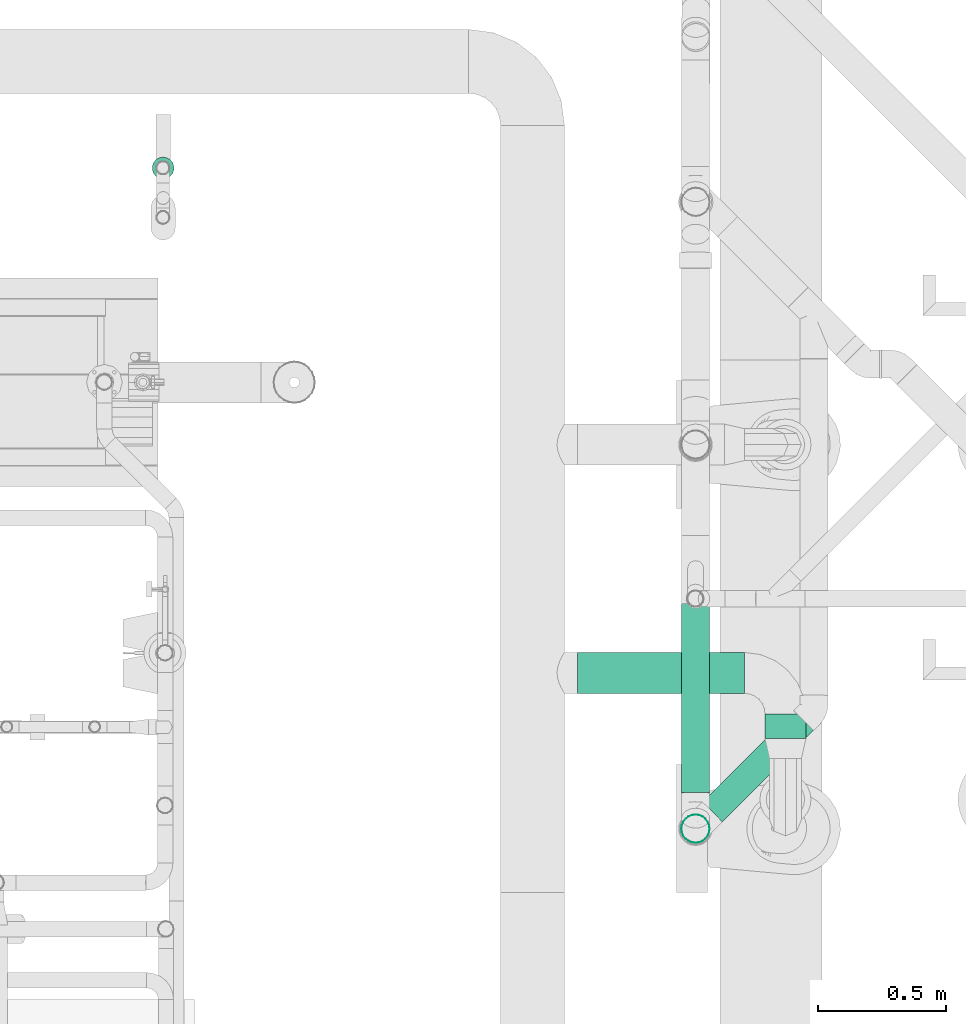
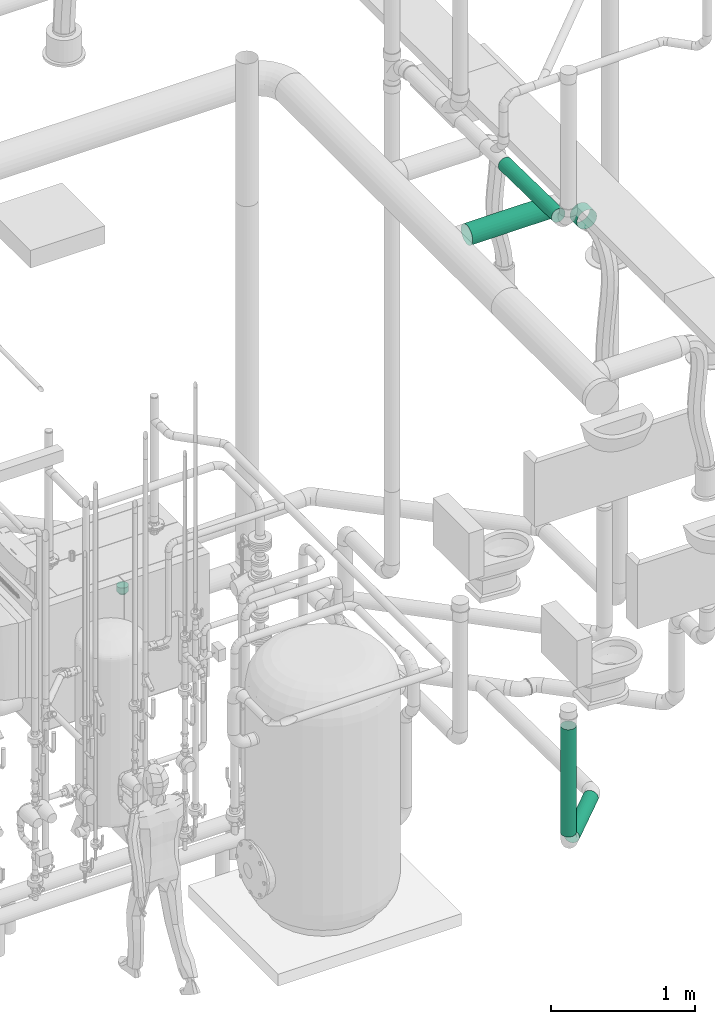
# One storey, part 298 of 374: 5 flow segments, 1 flow fitting.
"""IFC2X3 building model written with IfcOpenShell, lengths in metres."""

from ifc_helpers import new_model, si_unit, direction, origin, place, context, subcontext, project, spatial, open_shell, surface_model, source, transform, mapped, element, save


model = new_model("IFC2X3")

# Units and contexts
model_context = context("Model", 3, precision=1e-05, world=origin(), true_north=direction((-0.4480736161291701, 0.8939966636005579)))
body_context = subcontext(model_context, "Body", "Model", "MODEL_VIEW")
ifc_project = project(units=[si_unit("LENGTHUNIT", "METRE"), si_unit("AREAUNIT", "SQUARE_METRE"), si_unit("VOLUMEUNIT", "CUBIC_METRE"), si_unit("PLANEANGLEUNIT", "RADIAN"), si_unit("THERMODYNAMICTEMPERATUREUNIT", "KELVIN"), si_unit("MASSUNIT", "GRAM", prefix="KILO"), si_unit("TIMEUNIT", "SECOND")], contexts=[model_context])

# Site, building, storey
site_placement = place(None, origin())
site = spatial("IfcSite", under=ifc_project, at=site_placement, Name="Site 1", CompositionType="ELEMENT")
building_placement = place(site_placement, origin())
building = spatial("IfcBuilding", under=site, at=building_placement, Name="Undefined", CompositionType="ELEMENT")
storey_placement = place(building_placement, origin())
storey = spatial("IfcBuildingStorey", under=building, at=storey_placement, Name="Rez de chauss\x8ee", CompositionType="ELEMENT", Elevation=0.0)

# Flow segments
shared_shape_1 = source(origin(), body_context, "Body", "SurfaceModel", [
    surface_model("IfcFaceBasedSurfaceModel", [(0.5050367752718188, 0.0, 3.552713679e-15), (0.5051065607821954, 0.014357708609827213, -3.552713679e-15), (6.978551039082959e-05, 0.014357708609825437, 0.0), (0.0, 0.0, 0.0), (0.5051715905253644, 0.02822619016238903, -0.003716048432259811), (0.00013481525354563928, 0.02822619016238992, -0.0037160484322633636), (0.505227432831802, 0.04066033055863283, -0.010894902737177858), (0.00019065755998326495, 0.04066033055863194, -0.010894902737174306), (0.5052702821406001, 0.05081276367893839, -0.021047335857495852), (0.0002335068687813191, 0.0508127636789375, -0.0210473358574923), (0.5052972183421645, 0.05799161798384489, -0.03348147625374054), (0.0002604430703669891, 0.05799161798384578, -0.03348147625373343), (0.5053064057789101, 0.06170766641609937, -0.047349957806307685), (0.000269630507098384, 0.06170766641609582, -0.04734995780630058), (0.5052972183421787, 0.061707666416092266, -0.06170766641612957), (0.0002604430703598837, 0.061707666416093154, -0.06170766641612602), (0.5052702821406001, 0.057991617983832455, -0.07557614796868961), (0.00023350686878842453, 0.05799161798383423, -0.07557614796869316), (0.5052274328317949, 0.050812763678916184, -0.08801028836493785), (0.00019065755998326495, 0.050812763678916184, -0.0880102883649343), (0.5051715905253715, 0.04066033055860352, -0.09816272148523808), (0.00013481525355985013, 0.04066033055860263, -0.09816272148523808), (0.5051065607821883, 0.028226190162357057, -0.10534157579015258), (6.978551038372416e-05, 0.028226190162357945, -0.10534157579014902), (0.5050367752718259, 0.014357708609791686, -0.10905762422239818), (1.4210854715e-14, 0.01435770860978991, -0.10905762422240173), (0.5049669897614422, -3.3750779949e-14, -0.10905762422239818), (-6.978551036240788e-05, -3.4638958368e-14, -0.10905762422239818), (0.5049019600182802, -0.013868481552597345, -0.10534157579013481), (-0.00013481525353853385, -0.013868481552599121, -0.10534157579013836), (0.5048461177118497, -0.026302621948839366, -0.09816272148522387), (-0.0001906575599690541, -0.026302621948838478, -0.09816272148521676), (0.5048032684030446, -0.0364550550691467, -0.08801028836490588), (-0.00023350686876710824, -0.03645505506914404, -0.08801028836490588), (0.504776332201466, -0.043633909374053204, -0.0755761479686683), (-0.0002604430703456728, -0.04363390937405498, -0.07557614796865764), (0.5047671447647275, -0.04734995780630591, -0.061707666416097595), (-0.00026963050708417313, -0.0473499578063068, -0.06170766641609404), (0.5047763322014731, -0.04734995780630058, -0.04734995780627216), (-0.0002604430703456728, -0.047349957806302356, -0.047349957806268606), (0.5048032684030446, -0.04363390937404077, -0.03348147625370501), (-0.00023350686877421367, -0.04363390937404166, -0.03348147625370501), (0.5048461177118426, -0.03645505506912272, -0.021047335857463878), (-0.0001906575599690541, -0.036455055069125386, -0.021047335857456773), (0.5049019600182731, -0.026302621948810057, -0.010894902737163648), (-0.00013481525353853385, -0.02630262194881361, -0.010894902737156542), (0.5049669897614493, -0.01386848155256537, -0.0037160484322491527), (-6.978551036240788e-05, -0.013868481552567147, -0.0037160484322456)], [open_shell([[[0, 1, 2, 3]], [[1, 4, 5, 2]], [[4, 6, 7, 5]], [[6, 8, 9, 7]], [[8, 10, 11, 9]], [[10, 12, 13, 11]], [[12, 14, 15, 13]], [[14, 16, 17, 15]], [[16, 18, 19, 17]], [[18, 20, 21, 19]], [[20, 22, 23, 21]], [[22, 24, 25, 23]], [[24, 26, 27, 25]], [[26, 28, 29, 27]], [[28, 30, 31, 29]], [[30, 32, 33, 31]], [[32, 34, 35, 33]], [[34, 36, 37, 35]], [[36, 38, 39, 37]], [[38, 40, 41, 39]], [[40, 42, 43, 41]], [[42, 44, 45, 43]], [[44, 46, 47, 45]], [[46, 0, 3, 47]]])]),
])
flow_segment_1_placement = place(storey_placement, origin())
element("IfcFlowSegment", 1, at=flow_segment_1_placement, inside=storey, Name="PE-HD tuyau", ObjectType="PE-HD tuyau", context=body_context, shape_type="MappedRepresentation", body=[
    mapped(shared_shape_1, transform((57.457491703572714, 11.77189578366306, -1.1550323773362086), x_axis=(-0.7067858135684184, -0.7072128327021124, 0.01743051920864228), y_axis=(0.18993416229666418, -0.16596960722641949, 0.9676668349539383), z_axis=(-0.6814534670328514, 0.6872438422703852, 0.2516288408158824))),
])
shared_shape_2 = source(origin(), body_context, "Body", "SurfaceModel", [
    surface_model("IfcFaceBasedSurfaceModel", [(0.0, 0.014357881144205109, -3.552713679e-15), (0.0, 0.0, 0.0), (0.9082293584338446, -7.105427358e-15, 7.105427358e-15), (0.9082293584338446, 0.01435788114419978, 7.105427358e-15), (0.0, -0.01386864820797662, -0.0037160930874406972), (0.9082293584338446, -0.013868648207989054, -0.0037160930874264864), (0.0, -0.026302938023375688, -0.010895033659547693), (0.9082293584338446, -0.02630293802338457, -0.010895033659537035), (0.0, -0.03645549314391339, -0.021047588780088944), (0.9082293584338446, -0.03645549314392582, -0.02104758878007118), (0.0, -0.04363443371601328, -0.033481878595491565), (0.9082293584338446, -0.043634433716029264, -0.033481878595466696), (0.0, -0.04735052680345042, -0.04735052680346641), (0.9082293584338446, -0.04735052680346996, -0.04735052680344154), (0.0, -0.04735052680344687, -0.06170840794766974), (0.9082293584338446, -0.04735052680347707, -0.061708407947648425), (0.0, -0.04363443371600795, -0.07557705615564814), (0.9082293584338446, -0.043634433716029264, -0.07557705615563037), (0.0, -0.03645549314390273, -0.08801134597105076), (0.9082293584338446, -0.03645549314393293, -0.08801134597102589), (0.0, -0.026302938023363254, -0.0981639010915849), (0.9082293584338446, -0.02630293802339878, -0.09816390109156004), (0.0, -0.013868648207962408, -0.1053428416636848), (0.9082293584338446, -0.01386864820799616, -0.10534284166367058), (0.0, 1.5987211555e-14, -0.10905893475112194), (0.9082293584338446, -1.4210854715e-14, -0.10905893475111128), (0.0, 0.014357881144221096, -0.10905893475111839), (0.9082293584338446, 0.01435788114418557, -0.10905893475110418), (0.0, 0.028226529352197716, -0.10534284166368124), (0.9082293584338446, 0.028226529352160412, -0.10534284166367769), (0.0, 0.040660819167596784, -0.0981639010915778), (0.9082293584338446, 0.040660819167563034, -0.09816390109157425), (0.0, 0.05081337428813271, -0.08801134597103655), (0.9082293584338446, 0.05081337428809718, -0.088011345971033), (0.0, 0.05799231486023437, -0.07557705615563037), (0.9082293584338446, 0.05799231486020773, -0.07557705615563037), (0.0, 0.06170840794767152, -0.06170840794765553), (0.9082293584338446, 0.061708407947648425, -0.061708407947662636), (0.0, 0.061708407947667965, -0.0473505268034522), (0.9082293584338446, 0.061708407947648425, -0.04735052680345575), (0.0, 0.05799231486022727, -0.033481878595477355), (0.9082293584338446, 0.05799231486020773, -0.0334818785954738), (0.0, 0.050813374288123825, -0.021047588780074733), (0.9082293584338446, 0.05081337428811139, -0.021047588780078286), (0.0, 0.04066081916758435, -0.010895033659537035), (0.9082293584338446, 0.040660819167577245, -0.01089503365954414), (0.0, 0.028226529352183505, -0.0037160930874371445), (0.9082293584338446, 0.028226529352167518, -0.003716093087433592)], [open_shell([[[0, 1, 2, 3]], [[1, 4, 5, 2]], [[4, 6, 7, 5]], [[6, 8, 9, 7]], [[8, 10, 11, 9]], [[10, 12, 13, 11]], [[12, 14, 15, 13]], [[14, 16, 17, 15]], [[16, 18, 19, 17]], [[18, 20, 21, 19]], [[20, 22, 23, 21]], [[22, 24, 25, 23]], [[24, 26, 27, 25]], [[26, 28, 29, 27]], [[28, 30, 31, 29]], [[30, 32, 33, 31]], [[32, 34, 35, 33]], [[34, 36, 37, 35]], [[36, 38, 39, 37]], [[38, 40, 41, 39]], [[40, 42, 43, 41]], [[42, 44, 45, 43]], [[44, 46, 47, 45]], [[46, 0, 3, 47]]])]),
])
flow_segment_2_placement = place(storey_placement, origin())
element("IfcFlowSegment", 2, at=flow_segment_2_placement, inside=storey, Name="PE-HD tuyau", ObjectType="PE-HD tuyau", context=body_context, shape_type="MappedRepresentation", body=[
    mapped(shared_shape_2, transform((57.025760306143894, 11.33789170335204, -1.0587293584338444), x_axis=(0.0, 0.0, 1.0), y_axis=(0.6087614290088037, 0.7933533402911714, 0.0), z_axis=(-0.7933533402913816, 0.6087614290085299, 0.0))),
])
shared_shape_3 = source(origin(), body_context, "Body", "SurfaceModel", [
    surface_model("IfcFaceBasedSurfaceModel", [(0.0, 0.020884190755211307, 0.0), (0.0, 0.0, 0.0), (0.6539490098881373, 0.0, 0.0), (0.6539490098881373, 0.020884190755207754, -4.4408921e-16), (0.0, -0.020172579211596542, -0.005405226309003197), (0.6539490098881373, -0.020172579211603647, -0.005405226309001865), (0.0, -0.03825881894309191, -0.015847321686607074), (0.6539490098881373, -0.038258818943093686, -0.01584732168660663), (0.0, -0.05302617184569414, -0.0306146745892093), (0.6539490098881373, -0.05302617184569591, -0.030614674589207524), (0.0, -0.06346826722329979, -0.04870091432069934), (0.6539490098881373, -0.06346826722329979, -0.04870091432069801), (0.0, -0.06887349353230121, -0.06887349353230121), (0.6539490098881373, -0.06887349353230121, -0.06887349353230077), (0.0, -0.06887349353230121, -0.08975768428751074), (0.6539490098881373, -0.06887349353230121, -0.08975768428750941), (0.0, -0.06346826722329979, -0.10993026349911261), (0.6539490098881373, -0.06346826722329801, -0.10993026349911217), (0.0, -0.05302617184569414, -0.12801650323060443), (0.6539490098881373, -0.05302617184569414, -0.1280165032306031), (0.0, -0.038258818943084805, -0.14278385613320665), (0.6539490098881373, -0.03825881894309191, -0.14278385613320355), (0.0, -0.020172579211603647, -0.15322595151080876), (0.6539490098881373, -0.02017257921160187, -0.15322595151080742), (0.0, 7.105427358e-15, -0.15863117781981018), (0.6539490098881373, 0.0, -0.15863117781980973), (0.0, 0.020884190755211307, -0.15863117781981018), (0.6539490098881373, 0.02088419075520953, -0.15863117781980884), (0.0, 0.04105676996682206, -0.15322595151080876), (0.6539490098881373, 0.04105676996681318, -0.15322595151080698), (0.0, 0.05914300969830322, -0.1427838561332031), (0.6539490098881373, 0.05914300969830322, -0.1427838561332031), (0.0, 0.07391036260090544, -0.12801650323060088), (0.6539490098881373, 0.07391036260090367, -0.12801650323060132), (0.0, 0.0843524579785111, -0.10993026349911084), (0.6539490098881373, 0.08435245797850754, -0.10993026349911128), (0.0, 0.08975768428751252, -0.08975768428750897), (0.6539490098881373, 0.08975768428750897, -0.08975768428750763), (0.0, 0.08975768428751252, -0.06887349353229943), (0.6539490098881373, 0.08975768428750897, -0.06887349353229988), (0.0, 0.0843524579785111, -0.048700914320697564), (0.6539490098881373, 0.08435245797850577, -0.04870091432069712), (0.0, 0.07391036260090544, -0.030614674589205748), (0.6539490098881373, 0.07391036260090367, -0.030614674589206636), (0.0, 0.05914300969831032, -0.015847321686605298), (0.6539490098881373, 0.05914300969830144, -0.015847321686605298), (0.0, 0.04105676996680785, -0.005405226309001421), (0.6539490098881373, 0.0410567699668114, -0.005405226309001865)], [open_shell([[[0, 1, 2, 3]], [[1, 4, 5, 2]], [[4, 6, 7, 5]], [[6, 8, 9, 7]], [[8, 10, 11, 9]], [[10, 12, 13, 11]], [[12, 14, 15, 13]], [[14, 16, 17, 15]], [[16, 18, 19, 17]], [[18, 20, 21, 19]], [[20, 22, 23, 21]], [[22, 24, 25, 23]], [[24, 26, 27, 25]], [[26, 28, 29, 27]], [[28, 30, 31, 29]], [[30, 32, 33, 31]], [[32, 34, 35, 33]], [[34, 36, 37, 35]], [[36, 38, 39, 37]], [[38, 40, 41, 39]], [[40, 42, 43, 41]], [[42, 44, 45, 43]], [[44, 46, 47, 45]], [[46, 0, 3, 47]]])]),
])
flow_segment_3_placement = place(storey_placement, origin())
element("IfcFlowSegment", 3, at=flow_segment_3_placement, inside=storey, Name="Tube", ObjectType="Tube", context=body_context, shape_type="MappedRepresentation", body=[
    mapped(shared_shape_3, transform((56.61105099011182, 11.899294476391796, 3.877274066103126), x_axis=(1.0, 0.0, 0.0), y_axis=(0.0, 0.9914448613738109, 0.1305261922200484), z_axis=(0.0, -0.1305261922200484, 0.9914448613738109))),
])
shared_shape_4 = source(origin(), body_context, "Body", "SurfaceModel", [
    surface_model("IfcFaceBasedSurfaceModel", [(0.0, 0.020884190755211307, 0.0), (0.0, 0.0, 0.0), (0.09726623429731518, 0.0, 0.0), (0.09726623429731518, 0.0208841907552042, 0.0), (0.0, -0.020172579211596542, -0.005405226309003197), (0.09726623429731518, -0.020172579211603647, -0.005405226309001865), (0.0, -0.03825881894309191, -0.015847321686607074), (0.09726623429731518, -0.038258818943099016, -0.015847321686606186), (0.0, -0.05302617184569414, -0.0306146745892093), (0.09726623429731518, -0.05302617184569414, -0.03061467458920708), (0.0, -0.06346826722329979, -0.04870091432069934), (0.09726623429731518, -0.06346826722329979, -0.04870091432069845), (0.0, -0.06887349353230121, -0.06887349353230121), (0.09726623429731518, -0.06887349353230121, -0.06887349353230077), (0.0, -0.06887349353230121, -0.08975768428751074), (0.09726623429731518, -0.06887349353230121, -0.08975768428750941), (0.0, -0.06346826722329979, -0.10993026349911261), (0.09726623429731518, -0.06346826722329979, -0.10993026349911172), (0.0, -0.05302617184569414, -0.12801650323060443), (0.09726623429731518, -0.05302617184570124, -0.12801650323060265), (0.0, -0.038258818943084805, -0.14278385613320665), (0.09726623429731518, -0.03825881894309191, -0.1427838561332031), (0.0, -0.020172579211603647, -0.15322595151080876), (0.09726623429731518, -0.020172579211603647, -0.15322595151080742), (0.0, 7.105427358e-15, -0.15863117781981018), (0.09726623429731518, -7.105427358e-15, -0.1586311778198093), (0.0, 0.020884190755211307, -0.15863117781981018), (0.09726623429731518, 0.020884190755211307, -0.15863117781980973), (0.0, 0.04105676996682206, -0.15322595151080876), (0.09726623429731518, 0.041056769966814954, -0.15322595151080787), (0.0, 0.05914300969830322, -0.1427838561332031), (0.09726623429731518, 0.05914300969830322, -0.142783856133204), (0.0, 0.07391036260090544, -0.12801650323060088), (0.09726623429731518, 0.07391036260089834, -0.12801650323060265), (0.0, 0.0843524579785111, -0.10993026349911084), (0.09726623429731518, 0.08435245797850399, -0.10993026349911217), (0.0, 0.08975768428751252, -0.08975768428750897), (0.09726623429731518, 0.08975768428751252, -0.08975768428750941), (0.0, 0.08975768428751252, -0.06887349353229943), (0.09726623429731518, 0.08975768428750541, -0.06887349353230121), (0.0, 0.0843524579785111, -0.048700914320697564), (0.09726623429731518, 0.08435245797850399, -0.04870091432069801), (0.0, 0.07391036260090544, -0.030614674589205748), (0.09726623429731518, 0.07391036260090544, -0.030614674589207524), (0.0, 0.05914300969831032, -0.015847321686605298), (0.09726623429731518, 0.05914300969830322, -0.01584732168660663), (0.0, 0.04105676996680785, -0.005405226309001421), (0.09726623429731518, 0.041056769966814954, -0.005405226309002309)], [open_shell([[[0, 1, 2, 3]], [[1, 4, 5, 2]], [[4, 6, 7, 5]], [[6, 8, 9, 7]], [[8, 10, 11, 9]], [[10, 12, 13, 11]], [[12, 14, 15, 13]], [[14, 16, 17, 15]], [[16, 18, 19, 17]], [[18, 20, 21, 19]], [[20, 22, 23, 21]], [[22, 24, 25, 23]], [[24, 26, 27, 25]], [[26, 28, 29, 27]], [[28, 30, 31, 29]], [[30, 32, 33, 31]], [[32, 34, 35, 33]], [[34, 36, 37, 35]], [[36, 38, 39, 37]], [[38, 40, 41, 39]], [[40, 42, 43, 41]], [[42, 44, 45, 43]], [[44, 46, 47, 45]], [[46, 0, 3, 47]]])]),
])
flow_segment_4_placement = place(storey_placement, origin())
element("IfcFlowSegment", 4, at=flow_segment_4_placement, inside=storey, Name="Tube", ObjectType="Tube", context=body_context, shape_type="MappedRepresentation", body=[
    mapped(shared_shape_4, transform((57.404294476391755, 11.759999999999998, 3.877274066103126), x_axis=(0.0, -1.0, 0.0), y_axis=(0.9914448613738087, 0.0, 0.13052619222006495), z_axis=(-0.13052619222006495, 0.0, 0.9914448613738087))),
])
shared_shape_5 = source(origin(), body_context, "Body", "SurfaceModel", [
    surface_model("IfcFaceBasedSurfaceModel", [(0.00021812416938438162, 0.014356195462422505, 0.0), (0.0, 0.0, 0.0), (0.7397538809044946, 1.776356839e-15, 7.105427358e-15), (0.7399720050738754, 0.014356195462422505, 0.0), (-0.00020325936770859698, -0.013867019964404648, -0.003715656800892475), (0.7395506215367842, -0.013867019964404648, -0.003715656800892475), (-0.0003778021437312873, -0.026299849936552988, -0.010893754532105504), (0.7393760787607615, -0.026299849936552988, -0.010893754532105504), (-0.0005117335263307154, -0.03645121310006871, -0.021045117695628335), (0.7392421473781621, -0.03645121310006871, -0.02104511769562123), (-0.0005959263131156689, -0.04362931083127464, -0.03347794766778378), (0.7391579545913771, -0.04362931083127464, -0.033477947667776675), (-0.0006246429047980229, -0.04734496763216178, -0.04734496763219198), (0.739129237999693, -0.04734496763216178, -0.04734496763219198), (-0.0005959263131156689, -0.047344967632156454, -0.06170116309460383), (0.7391579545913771, -0.047344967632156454, -0.06170116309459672), (-0.0005117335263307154, -0.043629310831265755, -0.07556818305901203), (0.7392421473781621, -0.043629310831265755, -0.07556818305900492), (-0.0003778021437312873, -0.036451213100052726, -0.08800101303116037), (0.7393760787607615, -0.036451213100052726, -0.08800101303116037), (-0.00020325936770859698, -0.026299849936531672, -0.0981523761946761), (0.7395506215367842, -0.026299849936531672, -0.0981523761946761), (0.0, -0.013867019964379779, -0.10533047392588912), (0.7397538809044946, -0.013867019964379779, -0.10533047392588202), (0.00021812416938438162, 2.842170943e-14, -0.10904613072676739), (0.7399720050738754, 2.842170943e-14, -0.10904613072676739), (0.0004362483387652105, 0.014356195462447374, -0.10904613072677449), (0.7401901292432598, 0.014356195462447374, -0.10904613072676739), (0.0006395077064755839, 0.028223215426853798, -0.10533047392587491), (0.7403933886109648, 0.028223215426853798, -0.10533047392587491), (0.0008140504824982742, 0.04065604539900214, -0.09815237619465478), (0.7405679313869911, 0.04065604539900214, -0.09815237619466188), (0.0009479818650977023, 0.050807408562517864, -0.08800101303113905), (0.7407018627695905, 0.05080740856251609, -0.08800101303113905), (0.0010321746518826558, 0.057985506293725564, -0.0755681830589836), (0.7407860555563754, 0.057985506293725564, -0.0755681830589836), (0.001060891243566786, 0.06170116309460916, -0.06170116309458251), (0.7408147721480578, 0.06170116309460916, -0.06170116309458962), (0.0010321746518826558, 0.06170116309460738, -0.04734496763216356), (0.7407860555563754, 0.06170116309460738, -0.04734496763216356), (0.0009479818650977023, 0.057985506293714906, -0.03347794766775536), (0.7407018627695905, 0.057985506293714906, -0.03347794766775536), (0.0008140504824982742, 0.05080740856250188, -0.021045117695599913), (0.7405679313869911, 0.05080740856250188, -0.02104511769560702), (0.0006395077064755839, 0.0406560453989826, -0.010893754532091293), (0.7403933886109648, 0.0406560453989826, -0.010893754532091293), (0.0004362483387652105, 0.028223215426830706, -0.0037156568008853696), (0.7401901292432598, 0.028223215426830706, -0.0037156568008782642)], [open_shell([[[0, 1, 2, 3]], [[1, 4, 5, 2]], [[4, 6, 7, 5]], [[6, 8, 9, 7]], [[8, 10, 11, 9]], [[10, 12, 13, 11]], [[12, 14, 15, 13]], [[14, 16, 17, 15]], [[16, 18, 19, 17]], [[18, 20, 21, 19]], [[20, 22, 23, 21]], [[22, 24, 25, 23]], [[24, 26, 27, 25]], [[26, 28, 29, 27]], [[28, 30, 31, 29]], [[30, 32, 33, 31]], [[32, 34, 35, 33]], [[34, 36, 37, 35]], [[36, 38, 39, 37]], [[38, 40, 41, 39]], [[40, 42, 43, 41]], [[42, 44, 45, 43]], [[44, 46, 47, 45]], [[46, 0, 3, 47]]])]),
])
flow_segment_5_placement = place(storey_placement, origin())
element("IfcFlowSegment", 5, at=flow_segment_5_placement, inside=storey, Name="PE-HD tuyau", ObjectType="PE-HD tuyau", context=body_context, shape_type="MappedRepresentation", body=[
    mapped(shared_shape_5, transform((57.127119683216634, 11.450170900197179, 4.069910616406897), x_axis=(0.0, 0.9998285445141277, -0.018517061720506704), y_axis=(0.13052619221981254, 0.018358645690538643, 0.9912748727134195), z_axis=(0.9914448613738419, -0.0024169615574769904, -0.1305038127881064))),
])

# Flow fitting
shared_shape_6 = source(origin(), body_context, "Body", "SurfaceModel", [
    surface_model("IfcFaceBasedSurfaceModel", [(0.0, 0.011094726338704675, 3.552713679e-15), (0.0, 0.0, 0.0), (0.048000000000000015, 0.0, 3.552713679e-15), (0.048000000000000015, 0.011094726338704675, 3.552713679e-15), (0.0, -0.01071668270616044, -0.0028715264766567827), (0.048000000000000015, -0.01071668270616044, -0.0028715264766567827), (0.0, -0.020324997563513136, -0.008418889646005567), (0.048000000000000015, -0.020324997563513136, -0.008418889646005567), (0.0, -0.028170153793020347, -0.016264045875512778), (0.048000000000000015, -0.028170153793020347, -0.016264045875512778), (0.0, -0.03371751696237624, -0.025872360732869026), (0.048000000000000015, -0.03371751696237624, -0.025872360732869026), (0.0, -0.03658904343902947, -0.03658904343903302), (0.048000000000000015, -0.03658904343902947, -0.03658904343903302), (0.0, -0.03658904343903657, -0.047683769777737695), (0.048000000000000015, -0.03658904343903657, -0.047683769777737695), (0.0, -0.03371751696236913, -0.05840045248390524), (0.048000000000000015, -0.03371751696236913, -0.05840045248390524), (0.0, -0.028170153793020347, -0.06800876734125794), (0.048000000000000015, -0.028170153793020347, -0.06800876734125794), (0.0, -0.020324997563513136, -0.0758539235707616), (0.048000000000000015, -0.020324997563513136, -0.0758539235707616), (0.0, -0.010716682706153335, -0.08140128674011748), (0.048000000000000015, -0.010716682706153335, -0.08140128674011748), (0.0, 7.105427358e-15, -0.08427281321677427), (0.048000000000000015, 7.105427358e-15, -0.08427281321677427), (0.0, 0.01109472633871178, -0.08427281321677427), (0.048000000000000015, 0.01109472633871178, -0.08427281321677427), (0.0, 0.021811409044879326, -0.08140128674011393), (0.048000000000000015, 0.021811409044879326, -0.08140128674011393), (0.0, 0.03141972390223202, -0.0758539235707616), (0.048000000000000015, 0.03141972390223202, -0.0758539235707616), (0.0, 0.03926488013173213, -0.06800876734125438), (0.048000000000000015, 0.03926488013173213, -0.06800876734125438), (0.0, 0.04481224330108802, -0.05840045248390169), (0.048000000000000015, 0.04481224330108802, -0.05840045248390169), (0.0, 0.04768376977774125, -0.047683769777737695), (0.048000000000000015, 0.04768376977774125, -0.047683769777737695), (0.0, 0.04768376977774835, -0.03658904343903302), (0.048000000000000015, 0.04768376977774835, -0.03658904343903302), (0.0, 0.04481224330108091, -0.025872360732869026), (0.048000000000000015, 0.04481224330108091, -0.025872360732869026), (0.0, 0.03926488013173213, -0.016264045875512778), (0.048000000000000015, 0.03926488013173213, -0.016264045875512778), (0.0, 0.03141972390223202, -0.00841888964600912), (0.048000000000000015, 0.03141972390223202, -0.00841888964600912), (0.0, 0.02181140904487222, -0.00287152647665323), (0.048000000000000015, 0.02181140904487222, -0.00287152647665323), (0.0, 0.00554736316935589, -0.04213640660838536), (0.048000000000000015, 0.00554736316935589, -0.04213640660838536), (0.048000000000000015, 0.009202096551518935, -0.014375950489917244), (0.048000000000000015, 0.0018926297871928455, -0.014375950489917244), (0.068, 0.0018926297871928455, -0.014375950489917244), (0.068, 0.009202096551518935, -0.014375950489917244), (0.048000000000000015, -0.005167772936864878, -0.016267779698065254), (0.068, -0.005167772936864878, -0.016267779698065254), (0.048000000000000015, -0.011497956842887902, -0.019922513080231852), (0.068, -0.011497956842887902, -0.019922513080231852), (0.048000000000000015, -0.01666653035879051, -0.025091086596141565), (0.068, -0.01666653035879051, -0.025091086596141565), (0.048000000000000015, -0.02032126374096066, -0.03142127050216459), (0.068, -0.02032126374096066, -0.03142127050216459), (0.048000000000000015, -0.02221309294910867, -0.038481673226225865), (0.068, -0.02221309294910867, -0.038481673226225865), (0.048000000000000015, -0.022213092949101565, -0.0457911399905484), (0.068, -0.022213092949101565, -0.0457911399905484), (0.048000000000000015, -0.020321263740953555, -0.052851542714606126), (0.068, -0.020321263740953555, -0.052851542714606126), (0.048000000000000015, -0.01666653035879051, -0.0591817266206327), (0.068, -0.01666653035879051, -0.0591817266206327), (0.048000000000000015, -0.011497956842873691, -0.06435030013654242), (0.068, -0.011497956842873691, -0.06435030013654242), (0.048000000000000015, -0.005167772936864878, -0.06800503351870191), (0.068, -0.005167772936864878, -0.06800503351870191), (0.048000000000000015, 0.0018926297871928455, -0.06989686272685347), (0.068, 0.0018926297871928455, -0.06989686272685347), (0.048000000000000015, 0.009202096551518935, -0.06989686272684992), (0.068, 0.009202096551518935, -0.06989686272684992), (0.048000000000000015, 0.016262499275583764, -0.06800503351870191), (0.068, 0.016262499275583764, -0.06800503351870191), (0.048000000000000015, 0.022592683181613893, -0.06435030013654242), (0.068, 0.022592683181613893, -0.06435030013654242), (0.048000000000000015, 0.0277612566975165, -0.05918172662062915), (0.068, 0.0277612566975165, -0.05918172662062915), (0.048000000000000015, 0.03141599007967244, -0.05285154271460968), (0.068, 0.03141599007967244, -0.05285154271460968), (0.048000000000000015, 0.03330781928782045, -0.04579113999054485), (0.068, 0.03330781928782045, -0.04579113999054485), (0.048000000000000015, 0.03330781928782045, -0.038481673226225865), (0.068, 0.03330781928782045, -0.038481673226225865), (0.048000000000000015, 0.03141599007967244, -0.031421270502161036), (0.068, 0.03141599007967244, -0.031421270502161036), (0.048000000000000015, 0.027761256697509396, -0.025091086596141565), (0.068, 0.027761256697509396, -0.025091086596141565), (0.048000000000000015, 0.022592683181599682, -0.019922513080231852), (0.068, 0.022592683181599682, -0.019922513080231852), (0.048000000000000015, 0.016262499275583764, -0.016267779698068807), (0.068, 0.016262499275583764, -0.016267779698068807)], [open_shell([[[0, 1, 2, 3]], [[1, 4, 5, 2]], [[4, 6, 7, 5]], [[6, 8, 9, 7]], [[8, 10, 11, 9]], [[10, 12, 13, 11]], [[12, 14, 15, 13]], [[14, 16, 17, 15]], [[16, 18, 19, 17]], [[18, 20, 21, 19]], [[20, 22, 23, 21]], [[22, 24, 25, 23]], [[24, 26, 27, 25]], [[26, 28, 29, 27]], [[28, 30, 31, 29]], [[30, 32, 33, 31]], [[32, 34, 35, 33]], [[34, 36, 37, 35]], [[36, 38, 39, 37]], [[38, 40, 41, 39]], [[40, 42, 43, 41]], [[42, 44, 45, 43]], [[44, 46, 47, 45]], [[46, 0, 3, 47]], [[48, 1, 0]], [[48, 4, 1]], [[48, 6, 4]], [[48, 8, 6]], [[48, 10, 8]], [[48, 12, 10]], [[48, 14, 12]], [[48, 16, 14]], [[48, 18, 16]], [[48, 20, 18]], [[48, 22, 20]], [[48, 24, 22]], [[48, 26, 24]], [[48, 28, 26]], [[48, 30, 28]], [[48, 32, 30]], [[48, 34, 32]], [[48, 36, 34]], [[48, 38, 36]], [[48, 40, 38]], [[48, 42, 40]], [[48, 44, 42]], [[48, 46, 44]], [[48, 0, 46]], [[49, 47, 3]], [[49, 45, 47]], [[49, 43, 45]], [[49, 41, 43]], [[49, 39, 41]], [[49, 37, 39]], [[49, 35, 37]], [[49, 33, 35]], [[49, 31, 33]], [[49, 29, 31]], [[49, 27, 29]], [[49, 25, 27]], [[49, 23, 25]], [[49, 21, 23]], [[49, 19, 21]], [[49, 17, 19]], [[49, 15, 17]], [[49, 13, 15]], [[49, 11, 13]], [[49, 9, 11]], [[49, 7, 9]], [[49, 5, 7]], [[49, 2, 5]], [[49, 3, 2]], [[50, 51, 52, 53]], [[51, 54, 55, 52]], [[54, 56, 57, 55]], [[56, 58, 59, 57]], [[58, 60, 61, 59]], [[60, 62, 63, 61]], [[62, 64, 65, 63]], [[64, 66, 67, 65]], [[66, 68, 69, 67]], [[68, 70, 71, 69]], [[70, 72, 73, 71]], [[72, 74, 75, 73]], [[74, 76, 77, 75]], [[76, 78, 79, 77]], [[78, 80, 81, 79]], [[80, 82, 83, 81]], [[82, 84, 85, 83]], [[84, 86, 87, 85]], [[86, 88, 89, 87]], [[88, 90, 91, 89]], [[90, 92, 93, 91]], [[92, 94, 95, 93]], [[94, 96, 97, 95]], [[96, 50, 53, 97]]])]),
])
flow_fitting_placement = place(storey_placement, origin())
element("IfcFlowFitting", 6, at=flow_fitting_placement, inside=storey, Name="PE-HD tubulure avec raccord", ObjectType="PE-HD tubulure avec raccord", context=body_context, shape_type="MappedRepresentation", body=[
    mapped(shared_shape_6, transform((55.00265802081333, 13.935198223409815, 0.20249961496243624), x_axis=(0.0, 0.0, -1.0), y_axis=(-0.9914448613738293, 0.13052619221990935, 0.0), z_axis=(0.13052619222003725, 0.9914448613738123, 0.0))),
])

save(model, "model.ifc")
